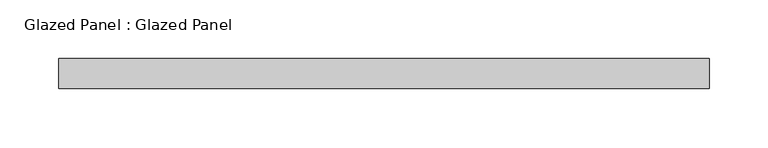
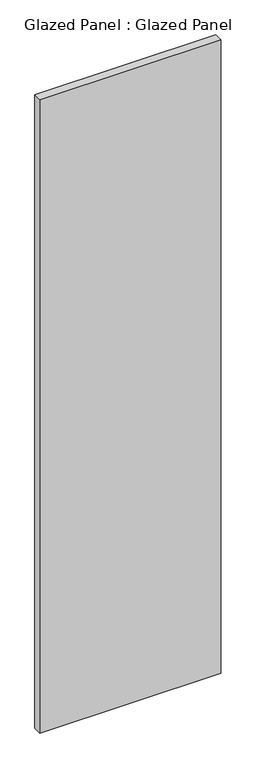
"""IFC4 building model written with IfcOpenShell, lengths in millimetres: plate geometry, Glazed Panel : Glazed Panel."""

from ifc_helpers import new_model, si_unit, origin, origin_with_axes, place, context, project, spatial, polyline, outline, extrude, source, transform, mapped, element, save


def glazed_panel_glazed_panel_fd67323b(model_context):
    return source(origin(), model_context, "Body", "SweptSolid", [
        extrude(outline(polyline([(275.43125, 38.1), (-275.43125, 38.1), (-275.43125, 63.5), (275.43125, 63.5), (275.43125, 38.1)])), origin_with_axes(), (0.0, 0.0, 1.0), 2038.35),
    ])


if __name__ == "__main__":
    model = new_model("IFC4")
    model_context = context("Model", 3, world=origin())
    ifc_project = project(units=[si_unit("LENGTHUNIT", "METRE", prefix="MILLI")], contexts=[model_context])
    site = spatial("IfcSite", under=ifc_project)
    building = spatial("IfcBuilding", under=site)
    placement = place(None, origin())
    glazed_panel_glazed_panel_shape = glazed_panel_glazed_panel_fd67323b(model_context)
    element("IfcPlate", 1, ObjectType="Glazed Panel : Glazed Panel", at=placement, inside=building, context=model_context, shape_type="MappedRepresentation", body=[
        mapped(glazed_panel_glazed_panel_shape, transform((0.0, 0.0, 0.0), x_axis=(1.0, 0.0, 0.0), y_axis=(0.0, 1.0, 0.0), z_axis=(0.0, 0.0, 1.0))),
    ])
    save(model, "model.ifc")
